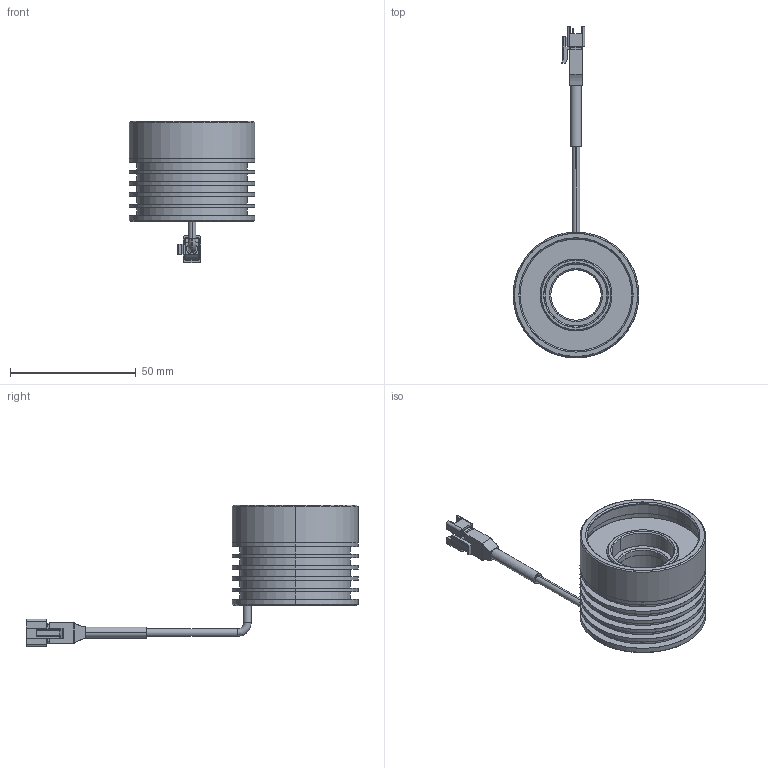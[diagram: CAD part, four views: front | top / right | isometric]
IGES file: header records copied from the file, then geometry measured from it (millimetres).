
Start section: SolidWorks IGES file using analytic representation for surfaces
Global section: file name: C:\Users\88691\Desktop\VOR (VHAT)\VOR-5026W-TCH65 (L1651A) VOR-5026W-TCH65CO (L1654A)\VOR-5026W-TCH65 _ Drawing _ L1651A-A00101.IGS; native system: SolidWorks 2020; preprocessor: SolidWorks 2020; author: 88691; date: 251023.141758; units: millimetre
Bounding box: 50 x 132 x 56.42 mm (x, y, z)
Surface area: 24670.5 mm2 (no closed solid volume)
Topology: 0 solids, 0 shells, 284 faces, 4468 edges, 4468 vertices
Faces by surface type: bspline 165, revolution 119
